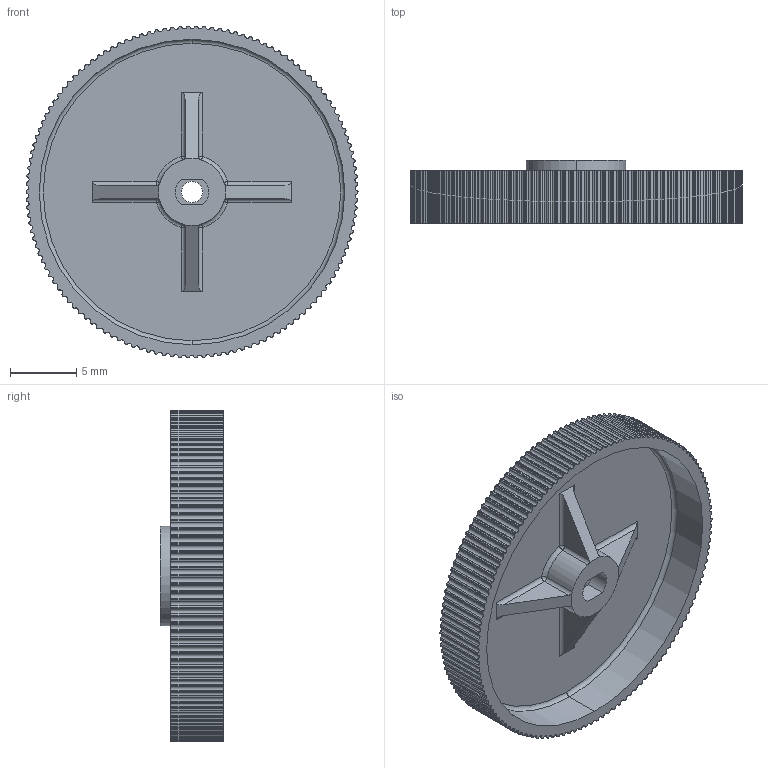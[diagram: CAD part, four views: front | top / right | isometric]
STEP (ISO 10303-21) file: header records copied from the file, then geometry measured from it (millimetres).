
FILE_DESCRIPTION (( 'STEP AP214' ), '1' );
FILE_NAME ('vol_knob.STEP', '2019-01-19T00:23:19', ( '' ), ( '' ), 'SwSTEP 2.0', 'SolidWorks 2014', '' );
FILE_SCHEMA (( 'AUTOMOTIVE_DESIGN' ));
Length unit declared in the file: millimetre
Products named in the file (1): vol_knob
Bounding box: 25 x 4.78 x 24.99 mm (x, y, z)
Volume: 796.4 mm3; surface area: 1702.8 mm2
Topology: 1 solids, 1 shells, 685 faces, 2019 edges, 1332 vertices
Faces by surface type: cylinder 651, plane 20, sphere 8, torus 6
Entity records: 23585 total; most frequent: DIRECTION 4677, CARTESIAN_POINT 4077, ORIENTED_EDGE 4022, EDGE_CURVE 2011, AXIS2_PLACEMENT_3D 1996, VERTEX_POINT 1332, CIRCLE 1310, EDGE_LOOP 691
